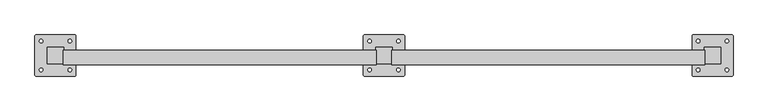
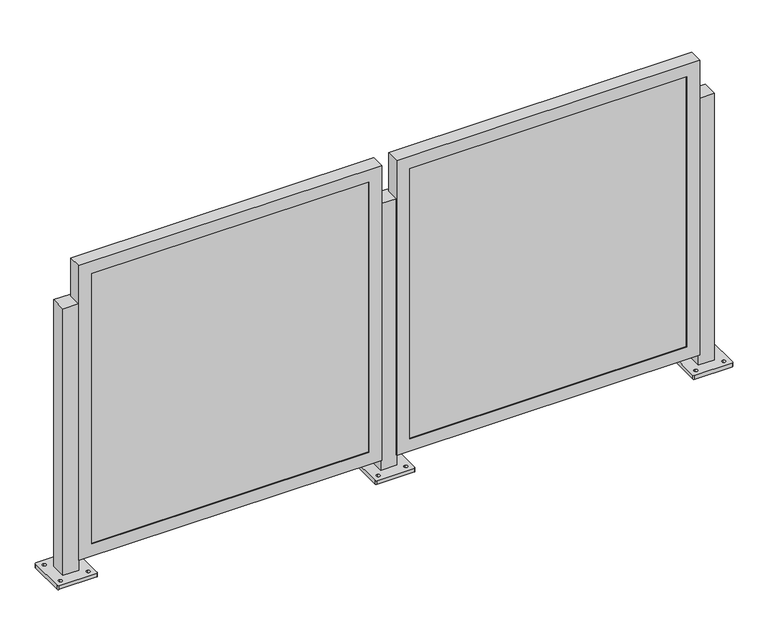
"""IFC4 building model written with IfcOpenShell, lengths in millimetres: railing geometry, Railing - Amico Architectural - Perforated Railing - Pisa."""

from ifc_helpers import new_model, si_unit, frame, origin, place, context, project, spatial, polyline, circle_curve, outline, extrude, faceted_brep, source, transform, mapped, element, save
from ifc_brep_helpers import plane_surface, cylinder_surface, revolved_surface, advanced_brep


def railing_b8c0e774(model_context):
    return source(origin(), model_context, "Body", "SolidModel", [
        advanced_brep(
        [(-27004.7094199, -12390.7148907, 914.4), (-27004.7094199, -12441.5148907, 914.4), (-26953.9094199, -12441.5148907, 914.4), (-26953.9094199, -12390.7148907, 914.4), (-27042.8094201, -12476.4398496, 0.0), (-27042.8094201, -12355.7899317, 0.0), (-27039.6343919, -12352.6149035, 0.0), (-26918.9844479, -12352.6149035, 0.0), (-26915.8094198, -12355.7899317, 0.0), (-26915.8094198, -12476.4398496, 0.0), (-26918.9844479, -12479.6148778, 0.0), (-27039.6343919, -12479.6148778, 0.0), (-27023.7594075, -12466.1211453, 0.0), (-27023.7594075, -12455.0086329, 0.0), (-27023.7594184, -12377.2211409, 0.0), (-27023.7594184, -12366.1086593, 0.0), (-26934.8594065, -12466.1211438, 0.0), (-26934.8594065, -12455.0086331, 0.0), (-26934.8594174, -12377.2211394, 0.0), (-26934.8594174, -12366.1086596, 0.0), (-27004.7094199, -12390.7148907, 12.7), (-27004.7094199, -12441.5148907, 12.7), (-26953.9094199, -12441.5148907, 12.7), (-26953.9094199, -12390.7148907, 12.7), (-27042.8094201, -12476.4398496, 12.7), (-27039.6343919, -12479.6148778, 12.7), (-26918.9844479, -12479.6148778, 12.7), (-26915.8094198, -12476.4398496, 12.7), (-26915.8094198, -12355.7899317, 12.7), (-26918.9844479, -12352.6149035, 12.7), (-27039.6343919, -12352.6149035, 12.7), (-27042.8094201, -12355.7899317, 12.7), (-27023.7594075, -12466.1211453, 12.7), (-27023.7594075, -12455.0086329, 12.7), (-27023.7594184, -12377.2211409, 12.7), (-27023.7594184, -12366.1086593, 12.7), (-26934.8594065, -12466.1211438, 12.7), (-26934.8594065, -12455.0086331, 12.7), (-26934.8594174, -12377.2211394, 12.7), (-26934.8594174, -12366.1086596, 12.7)],
        [
            (0, 1),
            (1, 2),
            (2, 3),
            (3, 0),
            (4, 5),
            (5, 6, circle_curve(frame((-27039.6343919, -12355.7899317, 0.0), z_axis=(0.0, 0.0, -1.0), x_axis=(0.0, 1.0, 0.0)), 3.1750282)),
            (6, 7),
            (7, 8, circle_curve(frame((-26918.9844479, -12355.7899317, 0.0), z_axis=(0.0, 0.0, -1.0), x_axis=(0.0, 1.0, 0.0)), 3.1750282)),
            (8, 9),
            (9, 10, circle_curve(frame((-26918.9844479, -12476.4398496, 0.0), z_axis=(0.0, 0.0, -1.0), x_axis=(0.0, 1.0, 0.0)), 3.1750282)),
            (10, 11),
            (11, 4, circle_curve(frame((-27039.6343919, -12476.4398496, 0.0), z_axis=(0.0, 0.0, -1.0), x_axis=(0.0, 1.0, 0.0)), 3.1750282)),
            (12, 13, circle_curve(frame((-27023.7594075, -12460.5648891, 0.0), z_axis=(0.0, 0.0, 1.0), x_axis=(0.0, 1.0, 0.0)), 5.5562562)),
            (13, 12, circle_curve(frame((-27023.7594075, -12460.5648891, 0.0), z_axis=(0.0, 0.0, 1.0), x_axis=(0.0, 1.0, 0.0)), 5.5562562)),
            (14, 15, circle_curve(frame((-27023.7594184, -12371.6649001, 0.0), z_axis=(0.0, 0.0, 1.0), x_axis=(0.0, 1.0, 0.0)), 5.5562408)),
            (15, 14, circle_curve(frame((-27023.7594184, -12371.6649001, 0.0), z_axis=(0.0, 0.0, 1.0), x_axis=(0.0, 1.0, 0.0)), 5.5562408)),
            (16, 17, circle_curve(frame((-26934.8594065, -12460.5648885, 0.0), z_axis=(0.0, 0.0, 1.0), x_axis=(0.0, 1.0, 0.0)), 5.5562553)),
            (17, 16, circle_curve(frame((-26934.8594065, -12460.5648885, 0.0), z_axis=(0.0, 0.0, 1.0), x_axis=(0.0, 1.0, 0.0)), 5.5562553)),
            (18, 19, circle_curve(frame((-26934.8594174, -12371.6648995, 0.0), z_axis=(0.0, 0.0, 1.0), x_axis=(0.0, 1.0, 0.0)), 5.5562399)),
            (19, 18, circle_curve(frame((-26934.8594174, -12371.6648995, 0.0), z_axis=(0.0, 0.0, 1.0), x_axis=(0.0, 1.0, 0.0)), 5.5562399)),
            (0, 20),
            (20, 21),
            (21, 1),
            (21, 22),
            (22, 2),
            (22, 23),
            (23, 3),
            (23, 20),
            (24, 25, circle_curve(frame((-27039.6343919, -12476.4398496, 12.7), z_axis=(0.0, 0.0, 1.0), x_axis=(0.0, 1.0, 0.0)), 3.1750282)),
            (25, 26),
            (26, 27, circle_curve(frame((-26918.9844479, -12476.4398496, 12.7), z_axis=(0.0, 0.0, 1.0), x_axis=(0.0, 1.0, 0.0)), 3.1750282)),
            (27, 28),
            (28, 29, circle_curve(frame((-26918.9844479, -12355.7899317, 12.7), z_axis=(0.0, 0.0, 1.0), x_axis=(0.0, 1.0, 0.0)), 3.1750282)),
            (29, 30),
            (30, 31, circle_curve(frame((-27039.6343919, -12355.7899317, 12.7), z_axis=(0.0, 0.0, 1.0), x_axis=(0.0, 1.0, 0.0)), 3.1750282)),
            (31, 24),
            (32, 33, circle_curve(frame((-27023.7594075, -12460.5648891, 12.7), z_axis=(0.0, 0.0, -1.0), x_axis=(0.0, 1.0, 0.0)), 5.5562562)),
            (33, 32, circle_curve(frame((-27023.7594075, -12460.5648891, 12.7), z_axis=(0.0, 0.0, -1.0), x_axis=(0.0, 1.0, 0.0)), 5.5562562)),
            (34, 35, circle_curve(frame((-27023.7594184, -12371.6649001, 12.7), z_axis=(0.0, 0.0, -1.0), x_axis=(0.0, 1.0, 0.0)), 5.5562408)),
            (35, 34, circle_curve(frame((-27023.7594184, -12371.6649001, 12.7), z_axis=(0.0, 0.0, -1.0), x_axis=(0.0, 1.0, 0.0)), 5.5562408)),
            (36, 37, circle_curve(frame((-26934.8594065, -12460.5648885, 12.7), z_axis=(0.0, 0.0, -1.0), x_axis=(0.0, 1.0, 0.0)), 5.5562553)),
            (37, 36, circle_curve(frame((-26934.8594065, -12460.5648885, 12.7), z_axis=(0.0, 0.0, -1.0), x_axis=(0.0, 1.0, 0.0)), 5.5562553)),
            (38, 39, circle_curve(frame((-26934.8594174, -12371.6648995, 12.7), z_axis=(0.0, 0.0, -1.0), x_axis=(0.0, 1.0, 0.0)), 5.5562399)),
            (39, 38, circle_curve(frame((-26934.8594174, -12371.6648995, 12.7), z_axis=(0.0, 0.0, -1.0), x_axis=(0.0, 1.0, 0.0)), 5.5562399)),
            (24, 4),
            (11, 25),
            (10, 26),
            (9, 27),
            (8, 28),
            (7, 29),
            (6, 30),
            (5, 31),
            (32, 12),
            (13, 33),
            (34, 14),
            (15, 35),
            (36, 16),
            (17, 37),
            (38, 18),
            (19, 39),
        ],
        [
            plane_surface(frame((-27004.7094199, -12441.5148907, 914.4), z_axis=(0.0, 0.0, 1.0), x_axis=(0.0, -1.0, 0.0))),
            plane_surface(frame((-27004.7094199, -12441.5148907, 0.0), z_axis=(0.0, 0.0, -1.0), x_axis=(0.0, 1.0, 0.0))),
            plane_surface(frame((-27004.7094199, -12390.7148907, 914.4), z_axis=(-1.0, 0.0, 0.0), x_axis=(0.0, 0.0, -1.0))),
            plane_surface(frame((-27004.7094199, -12441.5148907, 914.4), z_axis=(0.0, -1.0, 0.0), x_axis=(0.0, 0.0, -1.0))),
            plane_surface(frame((-26953.9094199, -12441.5148907, 914.4), z_axis=(1.0, 0.0, 0.0), x_axis=(0.0, 0.0, -1.0))),
            plane_surface(frame((-26953.9094199, -12390.7148907, 914.4), z_axis=(0.0, 1.0, 0.0), x_axis=(0.0, 0.0, -1.0))),
            plane_surface(frame((-27039.6343919, -12473.2648215, 12.7), z_axis=(0.0, 0.0, 1.0), x_axis=(-1.0, 0.0, 0.0))),
            cylinder_surface(frame((-27039.6343919, -12476.4398496, 0.0), z_axis=(0.0, 0.0, 1.0), x_axis=(0.0, 1.0, 0.0)), 3.1750282),
            plane_surface(frame((-27039.6343919, -12479.6148778, 12.7), z_axis=(1.1945386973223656e-12, -1.0, 0.0), x_axis=(0.0, 0.0, -1.0))),
            cylinder_surface(frame((-26918.9844479, -12476.4398496, 0.0), z_axis=(0.0, 0.0, 1.0), x_axis=(0.0, 1.0, 0.0)), 3.1750282),
            plane_surface(frame((-26915.8094198, -12476.4398496, 12.7), z_axis=(1.0, 0.0, 0.0), x_axis=(0.0, 0.0, -1.0))),
            cylinder_surface(frame((-26918.9844479, -12355.7899317, 0.0), z_axis=(0.0, 0.0, 1.0), x_axis=(0.0, 1.0, 0.0)), 3.1750282),
            plane_surface(frame((-26918.9844479, -12352.6149035, 12.7), z_axis=(-1.1946088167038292e-12, 1.0, 0.0), x_axis=(0.0, 0.0, -1.0))),
            cylinder_surface(frame((-27039.6343919, -12355.7899317, 0.0), z_axis=(0.0, 0.0, 1.0), x_axis=(0.0, 1.0, 0.0)), 3.1750282),
            plane_surface(frame((-27042.8094201, -12355.7899317, 12.7), z_axis=(-1.0, 0.0, 0.0), x_axis=(0.0, 0.0, -1.0))),
            revolved_surface(polyline([(-27023.7594075, -12455.0086329, 0.0), (-27023.7594075, -12455.0086329, 12.7)]), (-27023.7594075, -12460.5648891, 0.0), (0.0, 0.0, -1.0)),
            revolved_surface(polyline([(-27023.7594184, -12366.1086593, 0.0), (-27023.7594184, -12366.1086593, 12.7)]), (-27023.7594184, -12371.6649001, 0.0), (0.0, 0.0, -1.0)),
            revolved_surface(polyline([(-26934.8594065, -12455.0086332, 0.0), (-26934.8594065, -12455.0086332, 12.7)]), (-26934.8594065, -12460.5648885, 0.0), (0.0, 0.0, -1.0)),
            revolved_surface(polyline([(-26934.8594174, -12366.1086596, 0.0), (-26934.8594174, -12366.1086596, 12.7)]), (-26934.8594174, -12371.6648995, 0.0), (0.0, 0.0, -1.0)),
        ],
        [
            (0, [[1, 2, 3, 4]]),
            (1, [[5, 6, 7, 8, 9, 10, 11, 12], [13, 14], [15, 16], [17, 18], [19, 20]]),
            (2, [[-1, 21, 22, 23]]),
            (3, [[-2, -23, 24, 25]]),
            (4, [[-3, -25, 26, 27]]),
            (5, [[-4, -27, 28, -21]]),
            (6, [[29, 30, 31, 32, 33, 34, 35, 36], [-22, -28, -26, -24], [37, 38], [39, 40], [41, 42], [43, 44]]),
            (7, [[-29, 45, -12, 46]]),
            (8, [[-30, -46, -11, 47]]),
            (9, [[-31, -47, -10, 48]]),
            (10, [[-32, -48, -9, 49]]),
            (11, [[-33, -49, -8, 50]]),
            (12, [[-34, -50, -7, 51]]),
            (13, [[-35, -51, -6, 52]]),
            (14, [[-36, -52, -5, -45]]),
            (15, [[-37, 53, -14, 54]]),
            (15, [[-38, -54, -13, -53]]),
            (16, [[-39, 55, -16, 56]]),
            (16, [[-40, -56, -15, -55]]),
            (17, [[-41, 57, -18, 58]]),
            (17, [[-42, -58, -17, -57]]),
            (18, [[-43, 59, -20, 60]]),
            (18, [[-44, -60, -19, -59]]),
        ],
    ),
        faceted_brep([(-27971.1138733, -12444.2580907, 47.625), (-27002.7388733, -12444.2580907, 47.625), (-27002.7388733, -12444.2580907, 1044.575), (-27971.1138733, -12444.2580907, 1044.575), (-27929.8388733, -12444.2580907, 1003.3), (-27044.0138733, -12444.2580907, 1003.3), (-27044.0138733, -12444.2580907, 88.9), (-27929.8388733, -12444.2580907, 88.9), (-27929.8388733, -12441.5148907, 1003.3), (-27929.8388733, -12441.5148907, 88.9), (-27971.1138733, -12400.3847942, 1044.575), (-27971.1138733, -12400.3847942, 47.625), (-27967.9388733, -12400.3847942, 1041.4), (-27967.9388733, -12441.5148907, 1041.4), (-27967.9388733, -12441.5148907, 50.8), (-27967.9388733, -12400.3847942, 50.8), (-27044.0138733, -12441.5148907, 88.9), (-27002.7388733, -12400.3847942, 47.625), (-27005.9138733, -12441.5148907, 50.8), (-27005.9138733, -12400.3847942, 50.8), (-27044.0138733, -12441.5148907, 1003.3), (-27002.7388733, -12400.3847942, 1044.575), (-27005.9138733, -12441.5148907, 1041.4), (-27005.9138733, -12400.3847942, 1041.4)], [[[0, 1, 2, 3], [4, 5, 6, 7]], [[8, 4, 7, 9]], [[3, 10, 11, 0]], [[12, 13, 14, 15]], [[9, 7, 6, 16]], [[0, 11, 17, 1]], [[15, 14, 18, 19]], [[16, 6, 5, 20]], [[1, 17, 21, 2]], [[19, 18, 22, 23]], [[20, 5, 4, 8]], [[10, 21, 17, 11], [15, 19, 23, 12]], [[2, 21, 10, 3]], [[13, 22, 18, 14], [9, 16, 20, 8]], [[23, 22, 13, 12]]]),
        extrude(outline(polyline([(-27967.9388733, -12431.9898907), (-27005.9138733, -12431.9898907), (-27005.9138733, -12441.5148907), (-27967.9388733, -12441.5148907), (-27967.9388733, -12431.9898907)])), frame((0.0, 0.0, 50.8), z_axis=(0.0, 0.0, 1.0), x_axis=(1.0, 0.0, 0.0)), (0.0, 0.0, 1.0), 990.6),
        advanced_brep(
        [(-28020.7094199, -12390.7148907, 914.4), (-28020.7094199, -12441.5148907, 914.4), (-27969.9094199, -12441.5148907, 914.4), (-27969.9094199, -12390.7148907, 914.4), (-28058.8094201, -12476.4398496, 0.0), (-28058.8094201, -12355.7899317, 0.0), (-28055.6343919, -12352.6149035, 0.0), (-27934.9844479, -12352.6149035, 0.0), (-27931.8094198, -12355.7899317, 0.0), (-27931.8094198, -12476.4398496, 0.0), (-27934.9844479, -12479.6148778, 0.0), (-28055.6343919, -12479.6148778, 0.0), (-28039.7594075, -12466.1211453, 0.0), (-28039.7594075, -12455.0086329, 0.0), (-28039.7594184, -12377.2211409, 0.0), (-28039.7594184, -12366.1086593, 0.0), (-27950.8594065, -12466.1211438, 0.0), (-27950.8594065, -12455.0086331, 0.0), (-27950.8594174, -12377.2211394, 0.0), (-27950.8594174, -12366.1086596, 0.0), (-28020.7094199, -12390.7148907, 12.7), (-28020.7094199, -12441.5148907, 12.7), (-27969.9094199, -12441.5148907, 12.7), (-27969.9094199, -12390.7148907, 12.7), (-28058.8094201, -12476.4398496, 12.7), (-28055.6343919, -12479.6148778, 12.7), (-27934.9844479, -12479.6148778, 12.7), (-27931.8094198, -12476.4398496, 12.7), (-27931.8094198, -12355.7899317, 12.7), (-27934.9844479, -12352.6149035, 12.7), (-28055.6343919, -12352.6149035, 12.7), (-28058.8094201, -12355.7899317, 12.7), (-28039.7594075, -12466.1211453, 12.7), (-28039.7594075, -12455.0086329, 12.7), (-28039.7594184, -12377.2211409, 12.7), (-28039.7594184, -12366.1086593, 12.7), (-27950.8594065, -12466.1211438, 12.7), (-27950.8594065, -12455.0086331, 12.7), (-27950.8594174, -12377.2211394, 12.7), (-27950.8594174, -12366.1086596, 12.7)],
        [
            (0, 1),
            (1, 2),
            (2, 3),
            (3, 0),
            (4, 5),
            (5, 6, circle_curve(frame((-28055.6343919, -12355.7899317, 0.0), z_axis=(0.0, 0.0, -1.0), x_axis=(0.0, 1.0, 0.0)), 3.1750282)),
            (6, 7),
            (7, 8, circle_curve(frame((-27934.9844479, -12355.7899317, 0.0), z_axis=(0.0, 0.0, -1.0), x_axis=(0.0, 1.0, 0.0)), 3.1750282)),
            (8, 9),
            (9, 10, circle_curve(frame((-27934.9844479, -12476.4398496, 0.0), z_axis=(0.0, 0.0, -1.0), x_axis=(0.0, 1.0, 0.0)), 3.1750282)),
            (10, 11),
            (11, 4, circle_curve(frame((-28055.6343919, -12476.4398496, 0.0), z_axis=(0.0, 0.0, -1.0), x_axis=(0.0, 1.0, 0.0)), 3.1750282)),
            (12, 13, circle_curve(frame((-28039.7594075, -12460.5648891, 0.0), z_axis=(0.0, 0.0, 1.0), x_axis=(0.0, 1.0, 0.0)), 5.5562562)),
            (13, 12, circle_curve(frame((-28039.7594075, -12460.5648891, 0.0), z_axis=(0.0, 0.0, 1.0), x_axis=(0.0, 1.0, 0.0)), 5.5562562)),
            (14, 15, circle_curve(frame((-28039.7594184, -12371.6649001, 0.0), z_axis=(0.0, 0.0, 1.0), x_axis=(0.0, 1.0, 0.0)), 5.5562408)),
            (15, 14, circle_curve(frame((-28039.7594184, -12371.6649001, 0.0), z_axis=(0.0, 0.0, 1.0), x_axis=(0.0, 1.0, 0.0)), 5.5562408)),
            (16, 17, circle_curve(frame((-27950.8594065, -12460.5648885, 0.0), z_axis=(0.0, 0.0, 1.0), x_axis=(0.0, 1.0, 0.0)), 5.5562553)),
            (17, 16, circle_curve(frame((-27950.8594065, -12460.5648885, 0.0), z_axis=(0.0, 0.0, 1.0), x_axis=(0.0, 1.0, 0.0)), 5.5562553)),
            (18, 19, circle_curve(frame((-27950.8594174, -12371.6648995, 0.0), z_axis=(0.0, 0.0, 1.0), x_axis=(0.0, 1.0, 0.0)), 5.5562399)),
            (19, 18, circle_curve(frame((-27950.8594174, -12371.6648995, 0.0), z_axis=(0.0, 0.0, 1.0), x_axis=(0.0, 1.0, 0.0)), 5.5562399)),
            (0, 20),
            (20, 21),
            (21, 1),
            (21, 22),
            (22, 2),
            (22, 23),
            (23, 3),
            (23, 20),
            (24, 25, circle_curve(frame((-28055.6343919, -12476.4398496, 12.7), z_axis=(0.0, 0.0, 1.0), x_axis=(0.0, 1.0, 0.0)), 3.1750282)),
            (25, 26),
            (26, 27, circle_curve(frame((-27934.9844479, -12476.4398496, 12.7), z_axis=(0.0, 0.0, 1.0), x_axis=(0.0, 1.0, 0.0)), 3.1750282)),
            (27, 28),
            (28, 29, circle_curve(frame((-27934.9844479, -12355.7899317, 12.7), z_axis=(0.0, 0.0, 1.0), x_axis=(0.0, 1.0, 0.0)), 3.1750282)),
            (29, 30),
            (30, 31, circle_curve(frame((-28055.6343919, -12355.7899317, 12.7), z_axis=(0.0, 0.0, 1.0), x_axis=(0.0, 1.0, 0.0)), 3.1750282)),
            (31, 24),
            (32, 33, circle_curve(frame((-28039.7594075, -12460.5648891, 12.7), z_axis=(0.0, 0.0, -1.0), x_axis=(0.0, 1.0, 0.0)), 5.5562562)),
            (33, 32, circle_curve(frame((-28039.7594075, -12460.5648891, 12.7), z_axis=(0.0, 0.0, -1.0), x_axis=(0.0, 1.0, 0.0)), 5.5562562)),
            (34, 35, circle_curve(frame((-28039.7594184, -12371.6649001, 12.7), z_axis=(0.0, 0.0, -1.0), x_axis=(0.0, 1.0, 0.0)), 5.5562408)),
            (35, 34, circle_curve(frame((-28039.7594184, -12371.6649001, 12.7), z_axis=(0.0, 0.0, -1.0), x_axis=(0.0, 1.0, 0.0)), 5.5562408)),
            (36, 37, circle_curve(frame((-27950.8594065, -12460.5648885, 12.7), z_axis=(0.0, 0.0, -1.0), x_axis=(0.0, 1.0, 0.0)), 5.5562553)),
            (37, 36, circle_curve(frame((-27950.8594065, -12460.5648885, 12.7), z_axis=(0.0, 0.0, -1.0), x_axis=(0.0, 1.0, 0.0)), 5.5562553)),
            (38, 39, circle_curve(frame((-27950.8594174, -12371.6648995, 12.7), z_axis=(0.0, 0.0, -1.0), x_axis=(0.0, 1.0, 0.0)), 5.5562399)),
            (39, 38, circle_curve(frame((-27950.8594174, -12371.6648995, 12.7), z_axis=(0.0, 0.0, -1.0), x_axis=(0.0, 1.0, 0.0)), 5.5562399)),
            (24, 4),
            (11, 25),
            (10, 26),
            (9, 27),
            (8, 28),
            (7, 29),
            (6, 30),
            (5, 31),
            (32, 12),
            (13, 33),
            (34, 14),
            (15, 35),
            (36, 16),
            (17, 37),
            (38, 18),
            (19, 39),
        ],
        [
            plane_surface(frame((-28020.7094199, -12441.5148907, 914.4), z_axis=(0.0, 0.0, 1.0), x_axis=(0.0, -1.0, 0.0))),
            plane_surface(frame((-28020.7094199, -12441.5148907, 0.0), z_axis=(0.0, 0.0, -1.0), x_axis=(0.0, 1.0, 0.0))),
            plane_surface(frame((-28020.7094199, -12390.7148907, 914.4), z_axis=(-1.0, 0.0, 0.0), x_axis=(0.0, 0.0, -1.0))),
            plane_surface(frame((-28020.7094199, -12441.5148907, 914.4), z_axis=(0.0, -1.0, 0.0), x_axis=(0.0, 0.0, -1.0))),
            plane_surface(frame((-27969.9094199, -12441.5148907, 914.4), z_axis=(1.0, 0.0, 0.0), x_axis=(0.0, 0.0, -1.0))),
            plane_surface(frame((-27969.9094199, -12390.7148907, 914.4), z_axis=(0.0, 1.0, 0.0), x_axis=(0.0, 0.0, -1.0))),
            plane_surface(frame((-28055.6343919, -12473.2648215, 12.7), z_axis=(0.0, 0.0, 1.0), x_axis=(-1.0, 0.0, 0.0))),
            cylinder_surface(frame((-28055.6343919, -12476.4398496, 0.0), z_axis=(0.0, 0.0, 1.0), x_axis=(0.0, 1.0, 0.0)), 3.1750282),
            plane_surface(frame((-28055.6343919, -12479.6148778, 12.7), z_axis=(1.1945386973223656e-12, -1.0, 0.0), x_axis=(0.0, 0.0, -1.0))),
            cylinder_surface(frame((-27934.9844479, -12476.4398496, 0.0), z_axis=(0.0, 0.0, 1.0), x_axis=(0.0, 1.0, 0.0)), 3.1750282),
            plane_surface(frame((-27931.8094198, -12476.4398496, 12.7), z_axis=(1.0, 0.0, 0.0), x_axis=(0.0, 0.0, -1.0))),
            cylinder_surface(frame((-27934.9844479, -12355.7899317, 0.0), z_axis=(0.0, 0.0, 1.0), x_axis=(0.0, 1.0, 0.0)), 3.1750282),
            plane_surface(frame((-27934.9844479, -12352.6149035, 12.7), z_axis=(-1.1946088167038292e-12, 1.0, 0.0), x_axis=(0.0, 0.0, -1.0))),
            cylinder_surface(frame((-28055.6343919, -12355.7899317, 0.0), z_axis=(0.0, 0.0, 1.0), x_axis=(0.0, 1.0, 0.0)), 3.1750282),
            plane_surface(frame((-28058.8094201, -12355.7899317, 12.7), z_axis=(-1.0, 0.0, 0.0), x_axis=(0.0, 0.0, -1.0))),
            revolved_surface(polyline([(-28039.7594075, -12455.0086329, 0.0), (-28039.7594075, -12455.0086329, 12.7)]), (-28039.7594075, -12460.5648891, 0.0), (0.0, 0.0, -1.0)),
            revolved_surface(polyline([(-28039.7594184, -12366.1086593, 0.0), (-28039.7594184, -12366.1086593, 12.7)]), (-28039.7594184, -12371.6649001, 0.0), (0.0, 0.0, -1.0)),
            revolved_surface(polyline([(-27950.8594065, -12455.0086332, 0.0), (-27950.8594065, -12455.0086332, 12.7)]), (-27950.8594065, -12460.5648885, 0.0), (0.0, 0.0, -1.0)),
            revolved_surface(polyline([(-27950.8594174, -12366.1086596, 0.0), (-27950.8594174, -12366.1086596, 12.7)]), (-27950.8594174, -12371.6648995, 0.0), (0.0, 0.0, -1.0)),
        ],
        [
            (0, [[1, 2, 3, 4]]),
            (1, [[5, 6, 7, 8, 9, 10, 11, 12], [13, 14], [15, 16], [17, 18], [19, 20]]),
            (2, [[-1, 21, 22, 23]]),
            (3, [[-2, -23, 24, 25]]),
            (4, [[-3, -25, 26, 27]]),
            (5, [[-4, -27, 28, -21]]),
            (6, [[29, 30, 31, 32, 33, 34, 35, 36], [-22, -28, -26, -24], [37, 38], [39, 40], [41, 42], [43, 44]]),
            (7, [[-29, 45, -12, 46]]),
            (8, [[-30, -46, -11, 47]]),
            (9, [[-31, -47, -10, 48]]),
            (10, [[-32, -48, -9, 49]]),
            (11, [[-33, -49, -8, 50]]),
            (12, [[-34, -50, -7, 51]]),
            (13, [[-35, -51, -6, 52]]),
            (14, [[-36, -52, -5, -45]]),
            (15, [[-37, 53, -14, 54]]),
            (15, [[-38, -54, -13, -53]]),
            (16, [[-39, 55, -16, 56]]),
            (16, [[-40, -56, -15, -55]]),
            (17, [[-41, 57, -18, 58]]),
            (17, [[-42, -58, -17, -57]]),
            (18, [[-43, 59, -20, 60]]),
            (18, [[-44, -60, -19, -59]]),
        ],
    ),
        faceted_brep([(-28987.1138733, -12444.2580907, 47.625), (-28018.7388733, -12444.2580907, 47.625), (-28018.7388733, -12444.2580907, 1044.575), (-28987.1138733, -12444.2580907, 1044.575), (-28945.8388733, -12444.2580907, 1003.3), (-28060.0138733, -12444.2580907, 1003.3), (-28060.0138733, -12444.2580907, 88.9), (-28945.8388733, -12444.2580907, 88.9), (-28945.8388733, -12441.5148907, 1003.3), (-28945.8388733, -12441.5148907, 88.9), (-28987.1138733, -12400.3847942, 1044.575), (-28987.1138733, -12400.3847942, 47.625), (-28983.9388733, -12400.3847942, 1041.4), (-28983.9388733, -12441.5148907, 1041.4), (-28983.9388733, -12441.5148907, 50.8), (-28983.9388733, -12400.3847942, 50.8), (-28060.0138733, -12441.5148907, 88.9), (-28018.7388733, -12400.3847942, 47.625), (-28021.9138733, -12441.5148907, 50.8), (-28021.9138733, -12400.3847942, 50.8), (-28060.0138733, -12441.5148907, 1003.3), (-28018.7388733, -12400.3847942, 1044.575), (-28021.9138733, -12441.5148907, 1041.4), (-28021.9138733, -12400.3847942, 1041.4)], [[[0, 1, 2, 3], [4, 5, 6, 7]], [[8, 4, 7, 9]], [[3, 10, 11, 0]], [[12, 13, 14, 15]], [[9, 7, 6, 16]], [[0, 11, 17, 1]], [[15, 14, 18, 19]], [[16, 6, 5, 20]], [[1, 17, 21, 2]], [[19, 18, 22, 23]], [[20, 5, 4, 8]], [[10, 21, 17, 11], [15, 19, 23, 12]], [[2, 21, 10, 3]], [[13, 22, 18, 14], [9, 16, 20, 8]], [[23, 22, 13, 12]]]),
        extrude(outline(polyline([(-28983.9388733, -12431.9898907), (-28021.9138733, -12431.9898907), (-28021.9138733, -12441.5148907), (-28983.9388733, -12441.5148907), (-28983.9388733, -12431.9898907)])), frame((0.0, 0.0, 50.8), z_axis=(0.0, 0.0, 1.0), x_axis=(1.0, 0.0, 0.0)), (0.0, 0.0, 1.0), 990.6),
        advanced_brep(
        [(-29036.7094199, -12390.7148907, 914.4), (-29036.7094199, -12441.5148907, 914.4), (-28985.9094199, -12441.5148907, 914.4), (-28985.9094199, -12390.7148907, 914.4), (-29074.8094201, -12476.4398496, 0.0), (-29074.8094201, -12355.7899317, 0.0), (-29071.6343919, -12352.6149035, 0.0), (-28950.9844479, -12352.6149035, 0.0), (-28947.8094198, -12355.7899317, 0.0), (-28947.8094198, -12476.4398496, 0.0), (-28950.9844479, -12479.6148778, 0.0), (-29071.6343919, -12479.6148778, 0.0), (-29055.7594075, -12466.1211453, 0.0), (-29055.7594075, -12455.0086329, 0.0), (-29055.7594184, -12377.2211409, 0.0), (-29055.7594184, -12366.1086593, 0.0), (-28966.8594065, -12466.1211438, 0.0), (-28966.8594065, -12455.0086331, 0.0), (-28966.8594174, -12377.2211394, 0.0), (-28966.8594174, -12366.1086596, 0.0), (-29036.7094199, -12390.7148907, 12.7), (-29036.7094199, -12441.5148907, 12.7), (-28985.9094199, -12441.5148907, 12.7), (-28985.9094199, -12390.7148907, 12.7), (-29074.8094201, -12476.4398496, 12.7), (-29071.6343919, -12479.6148778, 12.7), (-28950.9844479, -12479.6148778, 12.7), (-28947.8094198, -12476.4398496, 12.7), (-28947.8094198, -12355.7899317, 12.7), (-28950.9844479, -12352.6149035, 12.7), (-29071.6343919, -12352.6149035, 12.7), (-29074.8094201, -12355.7899317, 12.7), (-29055.7594075, -12466.1211453, 12.7), (-29055.7594075, -12455.0086329, 12.7), (-29055.7594184, -12377.2211409, 12.7), (-29055.7594184, -12366.1086593, 12.7), (-28966.8594065, -12466.1211438, 12.7), (-28966.8594065, -12455.0086331, 12.7), (-28966.8594174, -12377.2211394, 12.7), (-28966.8594174, -12366.1086596, 12.7)],
        [
            (0, 1),
            (1, 2),
            (2, 3),
            (3, 0),
            (4, 5),
            (5, 6, circle_curve(frame((-29071.6343919, -12355.7899317, 0.0), z_axis=(0.0, 0.0, -1.0), x_axis=(0.0, 1.0, 0.0)), 3.1750282)),
            (6, 7),
            (7, 8, circle_curve(frame((-28950.9844479, -12355.7899317, 0.0), z_axis=(0.0, 0.0, -1.0), x_axis=(0.0, 1.0, 0.0)), 3.1750282)),
            (8, 9),
            (9, 10, circle_curve(frame((-28950.9844479, -12476.4398496, 0.0), z_axis=(0.0, 0.0, -1.0), x_axis=(0.0, 1.0, 0.0)), 3.1750282)),
            (10, 11),
            (11, 4, circle_curve(frame((-29071.6343919, -12476.4398496, 0.0), z_axis=(0.0, 0.0, -1.0), x_axis=(0.0, 1.0, 0.0)), 3.1750282)),
            (12, 13, circle_curve(frame((-29055.7594075, -12460.5648891, 0.0), z_axis=(0.0, 0.0, 1.0), x_axis=(0.0, 1.0, 0.0)), 5.5562562)),
            (13, 12, circle_curve(frame((-29055.7594075, -12460.5648891, 0.0), z_axis=(0.0, 0.0, 1.0), x_axis=(0.0, 1.0, 0.0)), 5.5562562)),
            (14, 15, circle_curve(frame((-29055.7594184, -12371.6649001, 0.0), z_axis=(0.0, 0.0, 1.0), x_axis=(0.0, 1.0, 0.0)), 5.5562408)),
            (15, 14, circle_curve(frame((-29055.7594184, -12371.6649001, 0.0), z_axis=(0.0, 0.0, 1.0), x_axis=(0.0, 1.0, 0.0)), 5.5562408)),
            (16, 17, circle_curve(frame((-28966.8594065, -12460.5648885, 0.0), z_axis=(0.0, 0.0, 1.0), x_axis=(0.0, 1.0, 0.0)), 5.5562553)),
            (17, 16, circle_curve(frame((-28966.8594065, -12460.5648885, 0.0), z_axis=(0.0, 0.0, 1.0), x_axis=(0.0, 1.0, 0.0)), 5.5562553)),
            (18, 19, circle_curve(frame((-28966.8594174, -12371.6648995, 0.0), z_axis=(0.0, 0.0, 1.0), x_axis=(0.0, 1.0, 0.0)), 5.5562399)),
            (19, 18, circle_curve(frame((-28966.8594174, -12371.6648995, 0.0), z_axis=(0.0, 0.0, 1.0), x_axis=(0.0, 1.0, 0.0)), 5.5562399)),
            (0, 20),
            (20, 21),
            (21, 1),
            (21, 22),
            (22, 2),
            (22, 23),
            (23, 3),
            (23, 20),
            (24, 25, circle_curve(frame((-29071.6343919, -12476.4398496, 12.7), z_axis=(0.0, 0.0, 1.0), x_axis=(0.0, 1.0, 0.0)), 3.1750282)),
            (25, 26),
            (26, 27, circle_curve(frame((-28950.9844479, -12476.4398496, 12.7), z_axis=(0.0, 0.0, 1.0), x_axis=(0.0, 1.0, 0.0)), 3.1750282)),
            (27, 28),
            (28, 29, circle_curve(frame((-28950.9844479, -12355.7899317, 12.7), z_axis=(0.0, 0.0, 1.0), x_axis=(0.0, 1.0, 0.0)), 3.1750282)),
            (29, 30),
            (30, 31, circle_curve(frame((-29071.6343919, -12355.7899317, 12.7), z_axis=(0.0, 0.0, 1.0), x_axis=(0.0, 1.0, 0.0)), 3.1750282)),
            (31, 24),
            (32, 33, circle_curve(frame((-29055.7594075, -12460.5648891, 12.7), z_axis=(0.0, 0.0, -1.0), x_axis=(0.0, 1.0, 0.0)), 5.5562562)),
            (33, 32, circle_curve(frame((-29055.7594075, -12460.5648891, 12.7), z_axis=(0.0, 0.0, -1.0), x_axis=(0.0, 1.0, 0.0)), 5.5562562)),
            (34, 35, circle_curve(frame((-29055.7594184, -12371.6649001, 12.7), z_axis=(0.0, 0.0, -1.0), x_axis=(0.0, 1.0, 0.0)), 5.5562408)),
            (35, 34, circle_curve(frame((-29055.7594184, -12371.6649001, 12.7), z_axis=(0.0, 0.0, -1.0), x_axis=(0.0, 1.0, 0.0)), 5.5562408)),
            (36, 37, circle_curve(frame((-28966.8594065, -12460.5648885, 12.7), z_axis=(0.0, 0.0, -1.0), x_axis=(0.0, 1.0, 0.0)), 5.5562553)),
            (37, 36, circle_curve(frame((-28966.8594065, -12460.5648885, 12.7), z_axis=(0.0, 0.0, -1.0), x_axis=(0.0, 1.0, 0.0)), 5.5562553)),
            (38, 39, circle_curve(frame((-28966.8594174, -12371.6648995, 12.7), z_axis=(0.0, 0.0, -1.0), x_axis=(0.0, 1.0, 0.0)), 5.5562399)),
            (39, 38, circle_curve(frame((-28966.8594174, -12371.6648995, 12.7), z_axis=(0.0, 0.0, -1.0), x_axis=(0.0, 1.0, 0.0)), 5.5562399)),
            (24, 4),
            (11, 25),
            (10, 26),
            (9, 27),
            (8, 28),
            (7, 29),
            (6, 30),
            (5, 31),
            (32, 12),
            (13, 33),
            (34, 14),
            (15, 35),
            (36, 16),
            (17, 37),
            (38, 18),
            (19, 39),
        ],
        [
            plane_surface(frame((-29036.7094199, -12441.5148907, 914.4), z_axis=(0.0, 0.0, 1.0), x_axis=(0.0, -1.0, 0.0))),
            plane_surface(frame((-29036.7094199, -12441.5148907, 0.0), z_axis=(0.0, 0.0, -1.0), x_axis=(0.0, 1.0, 0.0))),
            plane_surface(frame((-29036.7094199, -12390.7148907, 914.4), z_axis=(-1.0, 0.0, 0.0), x_axis=(0.0, 0.0, -1.0))),
            plane_surface(frame((-29036.7094199, -12441.5148907, 914.4), z_axis=(0.0, -1.0, 0.0), x_axis=(0.0, 0.0, -1.0))),
            plane_surface(frame((-28985.9094199, -12441.5148907, 914.4), z_axis=(1.0, 0.0, 0.0), x_axis=(0.0, 0.0, -1.0))),
            plane_surface(frame((-28985.9094199, -12390.7148907, 914.4), z_axis=(0.0, 1.0, 0.0), x_axis=(0.0, 0.0, -1.0))),
            plane_surface(frame((-29071.6343919, -12473.2648215, 12.7), z_axis=(0.0, 0.0, 1.0), x_axis=(-1.0, 0.0, 0.0))),
            cylinder_surface(frame((-29071.6343919, -12476.4398496, 0.0), z_axis=(0.0, 0.0, 1.0), x_axis=(0.0, 1.0, 0.0)), 3.1750282),
            plane_surface(frame((-29071.6343919, -12479.6148778, 12.7), z_axis=(1.1945386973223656e-12, -1.0, 0.0), x_axis=(0.0, 0.0, -1.0))),
            cylinder_surface(frame((-28950.9844479, -12476.4398496, 0.0), z_axis=(0.0, 0.0, 1.0), x_axis=(0.0, 1.0, 0.0)), 3.1750282),
            plane_surface(frame((-28947.8094198, -12476.4398496, 12.7), z_axis=(1.0, 0.0, 0.0), x_axis=(0.0, 0.0, -1.0))),
            cylinder_surface(frame((-28950.9844479, -12355.7899317, 0.0), z_axis=(0.0, 0.0, 1.0), x_axis=(0.0, 1.0, 0.0)), 3.1750282),
            plane_surface(frame((-28950.9844479, -12352.6149035, 12.7), z_axis=(-1.1946088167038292e-12, 1.0, 0.0), x_axis=(0.0, 0.0, -1.0))),
            cylinder_surface(frame((-29071.6343919, -12355.7899317, 0.0), z_axis=(0.0, 0.0, 1.0), x_axis=(0.0, 1.0, 0.0)), 3.1750282),
            plane_surface(frame((-29074.8094201, -12355.7899317, 12.7), z_axis=(-1.0, 0.0, 0.0), x_axis=(0.0, 0.0, -1.0))),
            revolved_surface(polyline([(-29055.7594075, -12455.0086329, 0.0), (-29055.7594075, -12455.0086329, 12.7)]), (-29055.7594075, -12460.5648891, 0.0), (0.0, 0.0, -1.0)),
            revolved_surface(polyline([(-29055.7594184, -12366.1086593, 0.0), (-29055.7594184, -12366.1086593, 12.7)]), (-29055.7594184, -12371.6649001, 0.0), (0.0, 0.0, -1.0)),
            revolved_surface(polyline([(-28966.8594065, -12455.0086332, 0.0), (-28966.8594065, -12455.0086332, 12.7)]), (-28966.8594065, -12460.5648885, 0.0), (0.0, 0.0, -1.0)),
            revolved_surface(polyline([(-28966.8594174, -12366.1086596, 0.0), (-28966.8594174, -12366.1086596, 12.7)]), (-28966.8594174, -12371.6648995, 0.0), (0.0, 0.0, -1.0)),
        ],
        [
            (0, [[1, 2, 3, 4]]),
            (1, [[5, 6, 7, 8, 9, 10, 11, 12], [13, 14], [15, 16], [17, 18], [19, 20]]),
            (2, [[-1, 21, 22, 23]]),
            (3, [[-2, -23, 24, 25]]),
            (4, [[-3, -25, 26, 27]]),
            (5, [[-4, -27, 28, -21]]),
            (6, [[29, 30, 31, 32, 33, 34, 35, 36], [-22, -28, -26, -24], [37, 38], [39, 40], [41, 42], [43, 44]]),
            (7, [[-29, 45, -12, 46]]),
            (8, [[-30, -46, -11, 47]]),
            (9, [[-31, -47, -10, 48]]),
            (10, [[-32, -48, -9, 49]]),
            (11, [[-33, -49, -8, 50]]),
            (12, [[-34, -50, -7, 51]]),
            (13, [[-35, -51, -6, 52]]),
            (14, [[-36, -52, -5, -45]]),
            (15, [[-37, 53, -14, 54]]),
            (15, [[-38, -54, -13, -53]]),
            (16, [[-39, 55, -16, 56]]),
            (16, [[-40, -56, -15, -55]]),
            (17, [[-41, 57, -18, 58]]),
            (17, [[-42, -58, -17, -57]]),
            (18, [[-43, 59, -20, 60]]),
            (18, [[-44, -60, -19, -59]]),
        ],
    ),
    ])


if __name__ == "__main__":
    model = new_model("IFC4")
    model_context = context("Model", 3, world=origin())
    ifc_project = project(units=[si_unit("LENGTHUNIT", "METRE", prefix="MILLI")], contexts=[model_context])
    site = spatial("IfcSite", under=ifc_project)
    building = spatial("IfcBuilding", under=site)
    placement = place(None, origin())
    railing_shape = railing_b8c0e774(model_context)
    element("IfcRailing", 1, ObjectType="Railing - Amico Architectural - Perforated Railing - Pisa", at=placement, inside=building, context=model_context, shape_type="MappedRepresentation", body=[
        mapped(railing_shape, transform((0.0, 0.0, 0.0), x_axis=(1.0, 0.0, 0.0), y_axis=(0.0, 1.0, 0.0), z_axis=(0.0, 0.0, 1.0))),
    ])
    save(model, "model.ifc")
